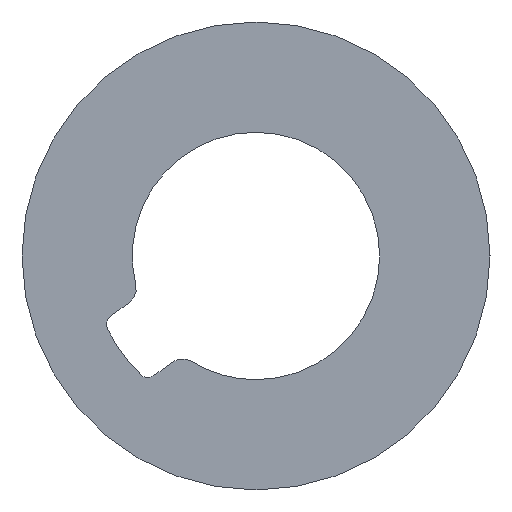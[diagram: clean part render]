
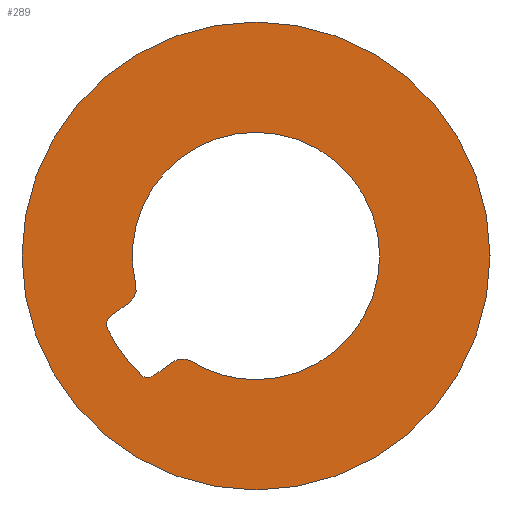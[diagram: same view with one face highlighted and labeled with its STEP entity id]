
A CAD part, left-side view. The second image highlights one B-rep face of the part: STEP entity #289.
In plain terms, the highlighted planar face has unit normal (-1, 0, 0).
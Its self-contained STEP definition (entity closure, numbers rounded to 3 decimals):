
#16 = AXIS2_PLACEMENT_3D ( 'NONE', #374, #373, #372 ) ;
#27 = AXIS2_PLACEMENT_3D ( 'NONE', #420, #419, #418 ) ;
#34 = AXIS2_PLACEMENT_3D ( 'NONE', #454, #453, #452 ) ;
#36 = AXIS2_PLACEMENT_3D ( 'NONE', #468, #467, #466 ) ;
#38 = AXIS2_PLACEMENT_3D ( 'NONE', #479, #478, #477 ) ;
#40 = AXIS2_PLACEMENT_3D ( 'NONE', #493, #492, #491 ) ;
#42 = AXIS2_PLACEMENT_3D ( 'NONE', #522, #521, #520 ) ;
#43 = AXIS2_PLACEMENT_3D ( 'NONE', #354, #525, #524 ) ;
#44 = AXIS2_PLACEMENT_3D ( 'NONE', #367, #362, #358 ) ;
#45 = AXIS2_PLACEMENT_3D ( 'NONE', #387, #383, #380 ) ;
#47 = AXIS2_PLACEMENT_3D ( 'NONE', #421, #417, #414 ) ;
#48 = AXIS2_PLACEMENT_3D ( 'NONE', #432, #429, #425 ) ;
#49 = EDGE_CURVE ( 'NONE', #462, #476, #230, .T. ) ;
#50 = EDGE_CURVE ( 'NONE', #519, #458, #228, .T. ) ;
#53 = EDGE_CURVE ( 'NONE', #487, #480, #222, .T. ) ;
#54 = EDGE_CURVE ( 'NONE', #480, #501, #223, .T. ) ;
#55 = EDGE_CURVE ( 'NONE', #501, #519, #218, .T. ) ;
#56 = EDGE_CURVE ( 'NONE', #458, #507, #217, .T. ) ;
#57 = EDGE_CURVE ( 'NONE', #507, #455, #215, .T. ) ;
#66 = EDGE_CURVE ( 'NONE', #447, #523, #197, .T. ) ;
#70 = EDGE_CURVE ( 'NONE', #513, #473, #189, .T. ) ;
#73 = EDGE_CURVE ( 'NONE', #476, #513, #183, .T. ) ;
#77 = EDGE_CURVE ( 'NONE', #473, #487, #175, .T. ) ;
#86 = EDGE_CURVE ( 'NONE', #523, #447, #157, .T. ) ;
#87 = EDGE_CURVE ( 'NONE', #455, #462, #158, .T. ) ;
#93 = ORIENTED_EDGE ( 'NONE', *, *, #87, .T. ) ;
#94 = ORIENTED_EDGE ( 'NONE', *, *, #66, .F. ) ;
#95 = ORIENTED_EDGE ( 'NONE', *, *, #86, .F. ) ;
#96 = ORIENTED_EDGE ( 'NONE', *, *, #49, .T. ) ;
#97 = ORIENTED_EDGE ( 'NONE', *, *, #70, .T. ) ;
#98 = ORIENTED_EDGE ( 'NONE', *, *, #73, .T. ) ;
#105 = ORIENTED_EDGE ( 'NONE', *, *, #54, .T. ) ;
#106 = ORIENTED_EDGE ( 'NONE', *, *, #53, .T. ) ;
#107 = ORIENTED_EDGE ( 'NONE', *, *, #77, .T. ) ;
#108 = ORIENTED_EDGE ( 'NONE', *, *, #55, .T. ) ;
#109 = ORIENTED_EDGE ( 'NONE', *, *, #56, .T. ) ;
#110 = ORIENTED_EDGE ( 'NONE', *, *, #50, .T. ) ;
#112 = ORIENTED_EDGE ( 'NONE', *, *, #57, .T. ) ;
#137 = FACE_BOUND ( 'NONE', #235, .T. ) ;
#138 = FACE_OUTER_BOUND ( 'NONE', #236, .T. ) ;
#156 = VECTOR ( 'NONE', #415, 1000. ) ;
#157 = CIRCLE ( 'NONE', #27, 7. ) ;
#158 = LINE ( 'NONE', #416, #156 ) ;
#175 = CIRCLE ( 'NONE', #34, 3.7 ) ;
#183 = CIRCLE ( 'NONE', #36, 3.7 ) ;
#189 = CIRCLE ( 'NONE', #38, 3.7 ) ;
#197 = CIRCLE ( 'NONE', #40, 7. ) ;
#215 = CIRCLE ( 'NONE', #42, 0.3 ) ;
#217 = CIRCLE ( 'NONE', #43, 4.95 ) ;
#218 = CIRCLE ( 'NONE', #44, 0.3 ) ;
#221 = VECTOR ( 'NONE', #371, 1000. ) ;
#222 = CIRCLE ( 'NONE', #45, 0.5 ) ;
#223 = LINE ( 'NONE', #376, #221 ) ;
#228 = CIRCLE ( 'NONE', #47, 0.3 ) ;
#230 = CIRCLE ( 'NONE', #48, 0.5 ) ;
#235 = EDGE_LOOP ( 'NONE', ( #93, #96, #98, #97, #107, #106, #105, #108, #110, #109, #112 ) ) ;
#236 = EDGE_LOOP ( 'NONE', ( #95, #94 ) ) ;
#289 = ADVANCED_FACE ( 'NONE', ( #138, #137 ), #375, .F. ) ;
#317 = CARTESIAN_POINT ( 'NONE',  ( -339.5, 0., 7. ) ) ;
#318 = CARTESIAN_POINT ( 'NONE',  ( -339.5, 3.236, -3.64 ) ) ;
#320 = CARTESIAN_POINT ( 'NONE',  ( -339.5, 0., 3.7 ) ) ;
#322 = CARTESIAN_POINT ( 'NONE',  ( -339.5, 4.445, -2.177 ) ) ;
#324 = CARTESIAN_POINT ( 'NONE',  ( -339.5, 3.059, -3.582 ) ) ;
#328 = CARTESIAN_POINT ( 'NONE',  ( -339.5, 1.939, -3.151 ) ) ;
#330 = CARTESIAN_POINT ( 'NONE',  ( -339.5, 2.495, -3.172 ) ) ;
#331 = CARTESIAN_POINT ( 'NONE',  ( -339.5, 3.596, -0.87 ) ) ;
#332 = CARTESIAN_POINT ( 'NONE',  ( -339.5, 0., -3.7 ) ) ;
#335 = CARTESIAN_POINT ( 'NONE',  ( -339.5, 3.788, -1.393 ) ) ;
#336 = CARTESIAN_POINT ( 'NONE',  ( -339.5, 3.444, -3.555 ) ) ;
#337 = CARTESIAN_POINT ( 'NONE',  ( -339.5, 4.352, -1.803 ) ) ;
#339 = CARTESIAN_POINT ( 'NONE',  ( -339.5, 0., -7. ) ) ;
#354 = CARTESIAN_POINT ( 'NONE',  ( -339.5, 0., 0. ) ) ;
#358 = DIRECTION ( 'NONE',  ( 0., 0., 1. ) ) ;
#362 = DIRECTION ( 'NONE',  ( 1., 0., 0. ) ) ;
#367 = CARTESIAN_POINT ( 'NONE',  ( -339.5, 3.236, -3.34 ) ) ;
#371 = DIRECTION ( 'NONE',  ( 0., 0.809, -0.588 ) ) ;
#372 = DIRECTION ( 'NONE',  ( 0., 0., -1. ) ) ;
#373 = DIRECTION ( 'NONE',  ( 1., 0., 0. ) ) ;
#374 = CARTESIAN_POINT ( 'NONE',  ( -339.5, 0., 0. ) ) ;
#375 = PLANE ( 'NONE',  #16 ) ;
#376 = CARTESIAN_POINT ( 'NONE',  ( -339.5, 3.059, -3.582 ) ) ;
#380 = DIRECTION ( 'NONE',  ( 0., 0., -1. ) ) ;
#383 = DIRECTION ( 'NONE',  ( -1., 0., 0. ) ) ;
#387 = CARTESIAN_POINT ( 'NONE',  ( -339.5, 2.201, -3.577 ) ) ;
#414 = DIRECTION ( 'NONE',  ( 0., 0., 1. ) ) ;
#415 = DIRECTION ( 'NONE',  ( 0., -0.809, 0.588 ) ) ;
#416 = CARTESIAN_POINT ( 'NONE',  ( -339.5, 3.788, -1.393 ) ) ;
#417 = DIRECTION ( 'NONE',  ( 1., 0., 0. ) ) ;
#418 = DIRECTION ( 'NONE',  ( 0., 0., -1. ) ) ;
#419 = DIRECTION ( 'NONE',  ( 1., 0., 0. ) ) ;
#420 = CARTESIAN_POINT ( 'NONE',  ( -339.5, 0., 0. ) ) ;
#421 = CARTESIAN_POINT ( 'NONE',  ( -339.5, 3.236, -3.34 ) ) ;
#425 = DIRECTION ( 'NONE',  ( 0., 0., 1. ) ) ;
#429 = DIRECTION ( 'NONE',  ( -1., 0., 0. ) ) ;
#432 = CARTESIAN_POINT ( 'NONE',  ( -339.5, 4.082, -0.988 ) ) ;
#447 = VERTEX_POINT ( 'NONE', #339 ) ;
#452 = DIRECTION ( 'NONE',  ( 0., 0., -1. ) ) ;
#453 = DIRECTION ( 'NONE',  ( 1., 0., 0. ) ) ;
#454 = CARTESIAN_POINT ( 'NONE',  ( -339.5, 0., 0. ) ) ;
#455 = VERTEX_POINT ( 'NONE', #337 ) ;
#458 = VERTEX_POINT ( 'NONE', #336 ) ;
#462 = VERTEX_POINT ( 'NONE', #335 ) ;
#466 = DIRECTION ( 'NONE',  ( 0., 0., -1. ) ) ;
#467 = DIRECTION ( 'NONE',  ( 1., 0., 0. ) ) ;
#468 = CARTESIAN_POINT ( 'NONE',  ( -339.5, 0., 0. ) ) ;
#473 = VERTEX_POINT ( 'NONE', #332 ) ;
#476 = VERTEX_POINT ( 'NONE', #331 ) ;
#477 = DIRECTION ( 'NONE',  ( 0., 0., -1. ) ) ;
#478 = DIRECTION ( 'NONE',  ( 1., 0., 0. ) ) ;
#479 = CARTESIAN_POINT ( 'NONE',  ( -339.5, 0., 0. ) ) ;
#480 = VERTEX_POINT ( 'NONE', #330 ) ;
#487 = VERTEX_POINT ( 'NONE', #328 ) ;
#491 = DIRECTION ( 'NONE',  ( 0., 0., -1. ) ) ;
#492 = DIRECTION ( 'NONE',  ( 1., 0., 0. ) ) ;
#493 = CARTESIAN_POINT ( 'NONE',  ( -339.5, 0., 0. ) ) ;
#501 = VERTEX_POINT ( 'NONE', #324 ) ;
#507 = VERTEX_POINT ( 'NONE', #322 ) ;
#513 = VERTEX_POINT ( 'NONE', #320 ) ;
#519 = VERTEX_POINT ( 'NONE', #318 ) ;
#520 = DIRECTION ( 'NONE',  ( 0., 0., -1. ) ) ;
#521 = DIRECTION ( 'NONE',  ( 1., 0., 0. ) ) ;
#522 = CARTESIAN_POINT ( 'NONE',  ( -339.5, 4.176, -2.045 ) ) ;
#523 = VERTEX_POINT ( 'NONE', #317 ) ;
#524 = DIRECTION ( 'NONE',  ( 0., 0., 1. ) ) ;
#525 = DIRECTION ( 'NONE',  ( 1., 0., 0. ) ) ;
